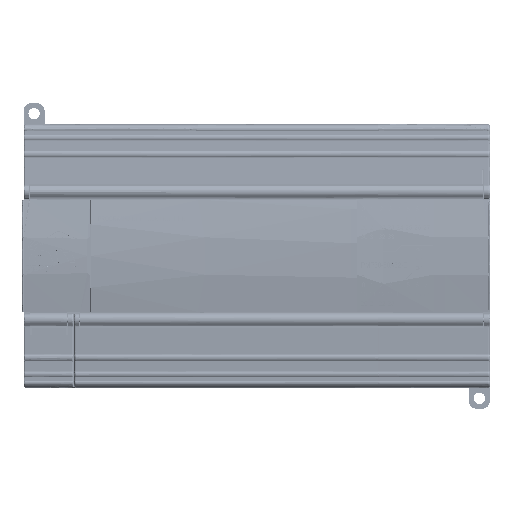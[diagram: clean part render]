
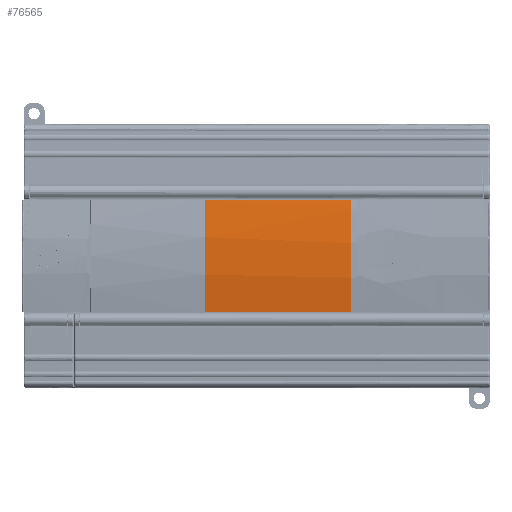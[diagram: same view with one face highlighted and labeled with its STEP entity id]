
A CAD part, front view. The second image highlights one B-rep face of the part: STEP entity #76565.
In plain terms, the highlighted cylindrical face has radius 128.002 mm (diameter 256.003 mm), a partial arc.
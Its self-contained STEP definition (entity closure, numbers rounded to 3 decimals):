
#76565=ADVANCED_FACE('',(#172351),#172353,.T.);
#172351=FACE_BOUND('',#172352,.T.);
#172352=EDGE_LOOP('',(#219965,#219966,#219967,#219968,#219969));
#172353=CYLINDRICAL_SURFACE('',#172354,128.002);
#172354=AXIS2_PLACEMENT_3D('',#172355,#172356,#172357);
#172355=CARTESIAN_POINT('',(-197.849,33.744,-0.574));
#172356=DIRECTION('',(-1.,0.,0.));
#172357=DIRECTION('',(0.,0.,1.));
#219965=ORIENTED_EDGE('',*,*,#243756,.T.);
#219966=ORIENTED_EDGE('',*,*,#243757,.T.);
#219967=ORIENTED_EDGE('',*,*,#233431,.F.);
#219968=ORIENTED_EDGE('',*,*,#242335,.F.);
#219969=ORIENTED_EDGE('',*,*,#243758,.F.);
#233431=EDGE_CURVE('',#286687,#286688,#286689,.T.);
#242335=EDGE_CURVE('',#301116,#286687,#301118,.T.);
#243756=EDGE_CURVE('',#303369,#303370,#303371,.T.);
#243757=EDGE_CURVE('',#303370,#286688,#303372,.T.);
#243758=EDGE_CURVE('',#303369,#301116,#303373,.T.);
#286687=VERTEX_POINT('',#346068);
#286688=VERTEX_POINT('',#346069);
#286689=LINE('',#346070,#346071);
#301116=VERTEX_POINT('',#406907);
#301118=B_SPLINE_CURVE_WITH_KNOTS('',3,
(#406913,#406914,#406915,#406916,#406917,#406918,#406919,#406920),
.UNSPECIFIED.,.F.,.F.,
(4,1,1,1,1,4),
(0.,0.238,0.445,0.629,0.814,1.),
.UNSPECIFIED.);
#303369=VERTEX_POINT('',#419947);
#303370=VERTEX_POINT('',#419948);
#303371=B_SPLINE_CURVE_WITH_KNOTS('',3,
(#419949,#419950,#419951,#419952,#419953,#419954),
.UNSPECIFIED.,.F.,.F.,
(4,1,1,4),
(0.,0.333,0.667,1.),
.UNSPECIFIED.);
#303372=CIRCLE('',#419955,128.002);
#303373=B_SPLINE_CURVE_WITH_KNOTS('',3,
(#419959,#419960,#419961,#419962),
.UNSPECIFIED.,.F.,.F.,
(4,4),
(0.,1.),
.UNSPECIFIED.);
#346068=CARTESIAN_POINT('',(-225.653,-92.489,20.647));
#346069=CARTESIAN_POINT('',(-170.014,-92.485,20.646));
#346070=CARTESIAN_POINT('',(-225.653,-92.503,20.571));
#346071=VECTOR('',#346072,1.);
#346072=DIRECTION('',(1.,0.,0.));
#406907=CARTESIAN_POINT('',(-225.652,-92.49,-21.792));
#406913=CARTESIAN_POINT('',(-225.652,-92.49,-21.792));
#406914=CARTESIAN_POINT('',(-225.644,-93.051,-18.457));
#406915=CARTESIAN_POINT('',(-225.629,-93.852,-12.178));
#406916=CARTESIAN_POINT('',(-225.62,-94.323,-3.252));
#406917=CARTESIAN_POINT('',(-225.622,-94.223,4.933));
#406918=CARTESIAN_POINT('',(-225.632,-93.642,12.803));
#406919=CARTESIAN_POINT('',(-225.646,-92.929,18.035));
#406920=CARTESIAN_POINT('',(-225.653,-92.49,20.647));
#419947=CARTESIAN_POINT('',(-170.014,-92.485,-21.794));
#419948=CARTESIAN_POINT('',(-170.014,-93.022,17.161));
#419949=CARTESIAN_POINT('',(-170.014,-92.483,-21.794));
#419950=CARTESIAN_POINT('',(-170.014,-93.207,-17.485));
#419951=CARTESIAN_POINT('',(-170.014,-94.215,-8.785));
#419952=CARTESIAN_POINT('',(-170.014,-94.382,4.309));
#419953=CARTESIAN_POINT('',(-170.014,-93.613,12.92));
#419954=CARTESIAN_POINT('',(-170.014,-93.02,17.16));
#419955=AXIS2_PLACEMENT_3D('',#419956,#419957,#419958);
#419956=CARTESIAN_POINT('',(-170.03,33.748,-0.574));
#419957=DIRECTION('',(-1.,0.,0.));
#419958=DIRECTION('',(0.,-0.99,0.139));
#419959=CARTESIAN_POINT('',(-170.014,-92.496,-21.719));
#419960=CARTESIAN_POINT('',(-188.56,-92.498,-21.718));
#419961=CARTESIAN_POINT('',(-207.106,-92.5,-21.718));
#419962=CARTESIAN_POINT('',(-225.652,-92.503,-21.718));
